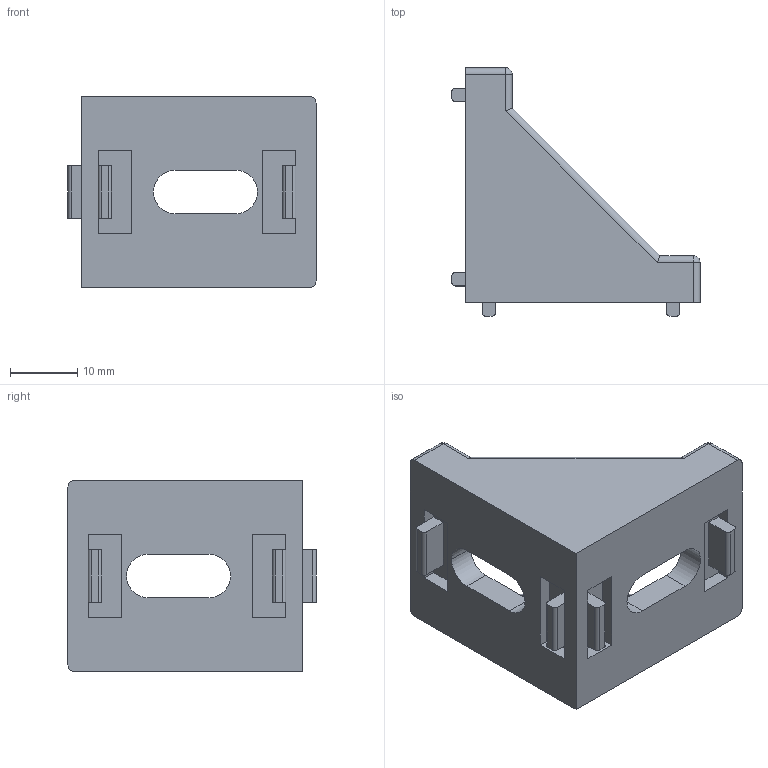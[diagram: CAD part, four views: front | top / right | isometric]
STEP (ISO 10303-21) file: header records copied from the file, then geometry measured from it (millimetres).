
FILE_DESCRIPTION (( 'STEP AP203' ), '1' );
FILE_NAME ('53－CE-RA3030-8.STEP', '2015-07-07T06:17:16', ( '' ), ( '' ), 'SwSTEP 2.0', 'SolidWorks 2013', '' );
FILE_SCHEMA (( 'CONFIG_CONTROL_DESIGN' ));
Length unit declared in the file: millimetre
Products named in the file (1): 53－CE-RA3030-8
Bounding box: 37 x 37 x 28.5 mm (x, y, z)
Volume: 9422.2 mm3; surface area: 6401.1 mm2
Topology: 1 solids, 1 shells, 110 faces, 280 edges, 168 vertices
Faces by surface type: plane 64, cylinder 38, sphere 8
Entity records: 3281 total; most frequent: CARTESIAN_POINT 575, DIRECTION 546, ORIENTED_EDGE 544, EDGE_CURVE 272, LINE 204, VECTOR 204, AXIS2_PLACEMENT_3D 171, VERTEX_POINT 168
